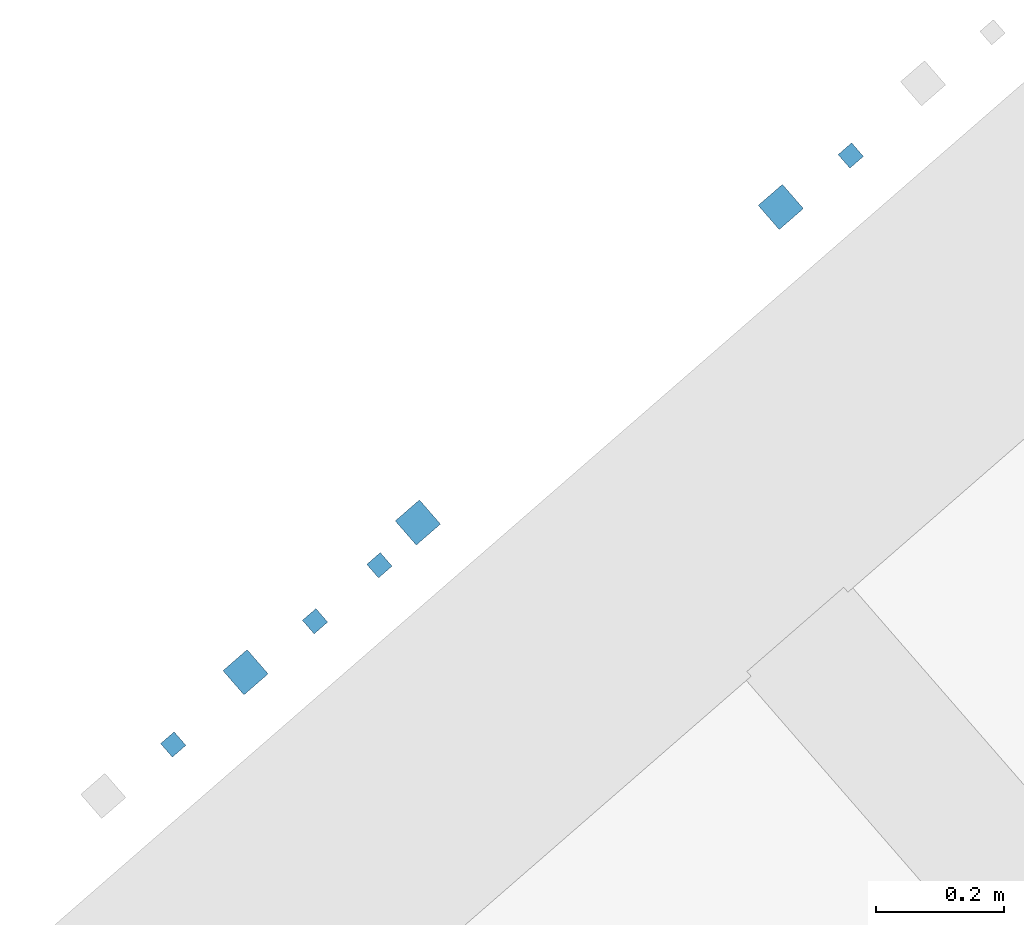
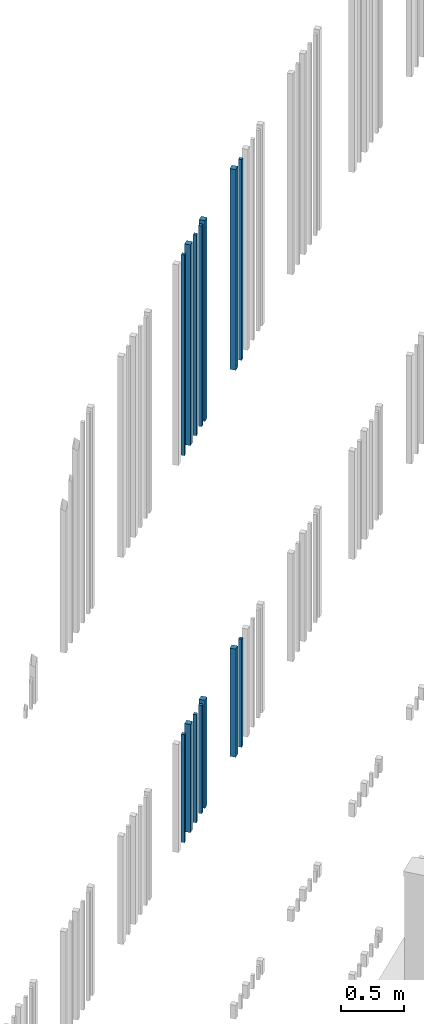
# One storey, part 51 of 124: 14 walls.
"""IFC2X3 building model written with IfcOpenShell, lengths in millimetres."""

import ifcopenshell
import ifcopenshell.guid

model = None  # the IFC model being written
_history = None  # IfcOwnerHistory: only IFC2X3 demands one
_inside = {}  # id of a spatial element -> (the spatial element, [elements in it])
_under = {}  # id of a project, library or spatial element -> (it, [spatial elements below it])
_declared = {}  # id of a project -> (the project, [libraries it declares])
_typed = {}  # id of a type object -> (the type object, [elements of that type])
_made_of = {}  # id of a material, layer set ... -> (it, [elements and type objects made of it])


def new_model(schema):
    """Start an empty IFC model of exactly this schema.

    Asked for "IFC4X3", IfcOpenShell would pick the latest addendum, in which some entities
    have other attributes; the version numbers below select the first issue.
    IFC2X3 requires an IfcOwnerHistory on every rooted entity: one is made here for all.
    """
    global model, _history
    if schema == "IFC4X3":
        model = ifcopenshell.file(schema_version=(4, 3, 0, 0))
    else:
        model = ifcopenshell.file(schema=schema)
    _inside.clear()
    _under.clear()
    _declared.clear()
    _typed.clear()
    _made_of.clear()
    _history = None
    if model.schema == "IFC2X3":
        org = make("IfcOrganization", Name="unknown")
        user = make(
            "IfcPersonAndOrganization",
            ThePerson=make("IfcPerson", FamilyName="unknown"),
            TheOrganization=org,
        )
        app = make(
            "IfcApplication",
            ApplicationDeveloper=org,
            Version="unknown",
            ApplicationFullName="unknown",
            ApplicationIdentifier="unknown",
        )
        _history = make(
            "IfcOwnerHistory",
            OwningUser=user,
            OwningApplication=app,
            ChangeAction="ADDED",
            CreationDate=0,
        )
    return model


def make(cls, **values):
    """One entity of the class cls with the attributes given. An attribute that is None is left unset."""
    return model.create_entity(
        cls, **{name: value for name, value in values.items() if value is not None}
    )


def entity(cls, *values):
    """Any entity or typed value of the class cls, its attributes in the order of the schema. None: left unset."""
    e = model.create_entity(cls)
    for i, value in enumerate(values):
        if value is not None:
            e[i] = value
    return e


def rooted(cls, **values):
    """An entity with a GlobalId (a new one), such as an element, a storey or a relation."""
    return make(cls, GlobalId=ifcopenshell.guid.new(), OwnerHistory=_history, **values)


def si_unit(unit_type, name, prefix=None):
    """IfcSIUnit, for example si_unit("LENGTHUNIT", "METRE", prefix="MILLI")."""
    return make("IfcSIUnit", UnitType=unit_type, Prefix=prefix, Name=name)


def converted_unit(unit_type, name, factor, base, dimensions=None, offset=None):
    """IfcConversionBasedUnit, such as the inch: factor (a typed value) times the base unit."""
    return make(
        "IfcConversionBasedUnit"
        if offset is None
        else "IfcConversionBasedUnitWithOffset",
        ConversionOffset=offset,
        Dimensions=None
        if dimensions is None
        else entity("IfcDimensionalExponents", *dimensions),
        UnitType=unit_type,
        Name=name,
        ConversionFactor=make(
            "IfcMeasureWithUnit", ValueComponent=factor, UnitComponent=base
        ),
    )


def derived_unit(unit_type, elements):
    """IfcDerivedUnit: a product of units, each with its exponent."""
    return make(
        "IfcDerivedUnit",
        Elements=[
            make("IfcDerivedUnitElement", Unit=unit, Exponent=power)
            for unit, power in elements
        ],
        UnitType=unit_type,
    )


def money_unit(currency):
    """IfcMonetaryUnit."""
    return make("IfcMonetaryUnit", Currency=currency)


def assignment(units):
    """IfcUnitAssignment: the units of a project."""
    return None if units is None else make("IfcUnitAssignment", Units=units)


def point(xyz):
    """IfcCartesianPoint."""
    return None if xyz is None else make("IfcCartesianPoint", Coordinates=xyz)


def direction(xyz):
    """IfcDirection."""
    return None if xyz is None else make("IfcDirection", DirectionRatios=xyz)


def frame(location, z_axis=None, x_axis=None):
    """IfcAxis2Placement3D, a coordinate frame: its origin and axes. An axis left out is left unset."""
    return make(
        "IfcAxis2Placement3D",
        Location=point(location),
        Axis=direction(z_axis),
        RefDirection=direction(x_axis),
    )


def origin_with_axes():
    """The frame at (0, 0, 0) with the z axis (0, 0, 1) and the x axis (1, 0, 0) written out."""
    return frame((0.0, 0.0, 0.0), z_axis=(0.0, 0.0, 1.0), x_axis=(1.0, 0.0, 0.0))


def place(relative_to, where):
    """IfcLocalPlacement: puts the frame where relative to a parent placement (None: the world)."""
    return make(
        "IfcLocalPlacement", PlacementRelTo=relative_to, RelativePlacement=where
    )


def context(
    kind, dimensions, precision=None, world=None, true_north=None, identifier=None
):
    """IfcGeometricRepresentationContext, for example the 3D "Model" context."""
    return make(
        "IfcGeometricRepresentationContext",
        ContextIdentifier=identifier,
        ContextType=kind,
        CoordinateSpaceDimension=dimensions,
        Precision=precision,
        WorldCoordinateSystem=world,
        TrueNorth=true_north,
    )


def subcontext(parent, identifier, kind, view, scale=None):
    """IfcGeometricRepresentationSubContext, for example "Body" below "Model"."""
    return make(
        "IfcGeometricRepresentationSubContext",
        ContextIdentifier=identifier,
        ContextType=kind,
        ParentContext=parent,
        TargetScale=scale,
        TargetView=view,
    )


def project(units=None, contexts=None):
    """IfcProject with its units and contexts."""
    return rooted(
        "IfcProject",
        Name="project",
        RepresentationContexts=contexts,
        UnitsInContext=assignment(units),
    )


def spatial(cls, under=None, at=None, **own):
    """A site, building, storey or space (cls), placed at a placement, below another one or the project."""
    s = rooted(cls, ObjectPlacement=at, **own)
    if under is not None:
        _under.setdefault(under.id(), (under, []))[1].append(s)
    return s


def faces_of(points, faces, orient=None, outer=None):
    """IfcFace entities. A face is a list of loops; a loop is a list of indices into points, from 0.

    orient and outer hold one flag for each loop. By default every Orientation is true, the
    first loop of a face is its IfcFaceOuterBound and the others are IfcFaceBound.
    """
    made = []
    for i, loops in enumerate(faces):
        bounds = []
        for j, loop in enumerate(loops):
            is_outer = j == 0 if outer is None else outer[i][j]
            bounds.append(
                make(
                    "IfcFaceOuterBound" if is_outer else "IfcFaceBound",
                    Bound=make("IfcPolyLoop", Polygon=[points[k] for k in loop]),
                    Orientation=True if orient is None else orient[i][j],
                )
            )
        made.append(make("IfcFace", Bounds=bounds))
    return made


def faceted_brep(points, faces, orient=None, outer=None, voids=None):
    """IfcFacetedBrep: a solid bounded by flat faces; with voids (closed shells), ...WithVoids."""
    shared = [point(p) for p in points]
    hull = make("IfcClosedShell", CfsFaces=faces_of(shared, faces, orient, outer))
    if voids is None:
        return make("IfcFacetedBrep", Outer=hull)
    return make(
        "IfcFacetedBrepWithVoids",
        Outer=hull,
        Voids=[
            make(cls, CfsFaces=faces_of(shared, fs, o, b)) for cls, fs, o, b in voids
        ],
    )


def shape(context_of_items, identifier, shape_type, items):
    """IfcShapeRepresentation: the items that make up one representation, for example the "Body"."""
    return make(
        "IfcShapeRepresentation",
        ContextOfItems=context_of_items,
        RepresentationIdentifier=identifier,
        RepresentationType=shape_type,
        Items=items,
    )


def material(Name=None, Category=None):
    """IfcMaterial."""
    return make("IfcMaterial", Name=Name, Category=Category)


def made_of(thing, what):
    """Note that an element or type object is made of a material, layer set ...; save() writes the relation."""
    if what is not None:
        _made_of.setdefault(what.id(), (what, []))[1].append(thing)
    return thing


def type_object(cls, material=None, **own):
    """A type object (cls), such as IfcWallType, which elements share."""
    return made_of(rooted(cls, **own), material)


def element(
    cls,
    number,
    at=None,
    inside=None,
    cuts=None,
    type_object=None,
    material=None,
    context=None,
    identifier="Body",
    shape_type=None,
    held_by="IfcProductDefinitionShape",
    body=None,
    shapes=None,
    **own,
):
    """One element of the class cls, such as IfcWall. Its Tag is "e" and its number.

    at: its placement. inside: the storey or other place that contains it. cuts: it is an
    opening in that element (IfcRelVoidsElement). A single representation is given by context,
    identifier, shape_type and body (its items); several are given by shapes. held_by: the class
    of the entity that holds the representations. save() writes the other relations.
    """
    e = rooted(cls, Tag="e%d" % number, ObjectPlacement=at, **own)
    if body is not None:
        shapes = [shape(context, identifier, shape_type, body)]
    if shapes is not None:
        e.Representation = make(held_by, Representations=shapes)
    if inside is not None:
        _inside.setdefault(inside.id(), (inside, []))[1].append(e)
    if cuts is not None:
        rooted(
            "IfcRelVoidsElement", RelatingBuildingElement=cuts, RelatedOpeningElement=e
        )
    if type_object is not None:
        _typed.setdefault(type_object.id(), (type_object, []))[1].append(e)
    return made_of(e, material)


def aggregate(whole, parts):
    """IfcRelAggregates: a whole, such as a stair, and the parts it consists of."""
    return rooted("IfcRelAggregates", RelatingObject=whole, RelatedObjects=parts)


def save(model, path):
    """Write the relations noted so far, then the file.

    IfcRelAggregates (storeys below a building ...), IfcRelContainedInSpatialStructure (elements
    in a storey), IfcRelDefinesByType, IfcRelAssociatesMaterial and IfcRelDeclares: one each for
    every whole, place, type object, material and project.
    """
    for whole, parts in _under.values():
        aggregate(whole, parts)
    for where, things in _inside.values():
        rooted(
            "IfcRelContainedInSpatialStructure",
            RelatedElements=things,
            RelatingStructure=where,
        )
    for kind, things in _typed.values():
        rooted("IfcRelDefinesByType", RelatedObjects=things, RelatingType=kind)
    for what, things in _made_of.values():
        rooted("IfcRelAssociatesMaterial", RelatedObjects=things, RelatingMaterial=what)
    for by, libraries in _declared.values():
        rooted("IfcRelDeclares", RelatingContext=by, RelatedDefinitions=libraries)
    model.write(path)


model = new_model("IFC2X3")

# Units and contexts
model_context = context("Model", 3, precision=1e-05, world=origin_with_axes(), true_north=direction((0.0, 1.0)))
body_context = subcontext(model_context, "Body", "Model", "MODEL_VIEW")
ifc_project = project(units=[si_unit("LENGTHUNIT", "METRE", prefix="MILLI"), si_unit("AREAUNIT", "SQUARE_METRE"), si_unit("VOLUMEUNIT", "CUBIC_METRE"), converted_unit("PLANEANGLEUNIT", "DEGREE", entity("IfcPlaneAngleMeasure", 0.0174532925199), si_unit("PLANEANGLEUNIT", "RADIAN"), dimensions=[0, 0, 0, 0, 0, 0, 0]), si_unit("SOLIDANGLEUNIT", "STERADIAN"), money_unit("EUR"), converted_unit("TIMEUNIT", "Year", entity("IfcTimeMeasure", 31556926.0), si_unit("TIMEUNIT", "SECOND"), dimensions=[0, 0, 1, 0, 0, 0, 0]), si_unit("MASSUNIT", "GRAM", prefix="KILO"), si_unit("THERMODYNAMICTEMPERATUREUNIT", "DEGREE_CELSIUS"), si_unit("LUMINOUSINTENSITYUNIT", "LUMEN"), si_unit("ENERGYUNIT", "JOULE", prefix="MEGA"), derived_unit("THERMALCONDUCTANCEUNIT", [(si_unit("POWERUNIT", "WATT"), 1), (si_unit("LENGTHUNIT", "METRE"), -1), (si_unit("THERMODYNAMICTEMPERATUREUNIT", "KELVIN"), -1)]), derived_unit("SPECIFICHEATCAPACITYUNIT", [(si_unit("ENERGYUNIT", "JOULE"), 1), (si_unit("MASSUNIT", "GRAM", prefix="KILO"), -1), (si_unit("THERMODYNAMICTEMPERATUREUNIT", "KELVIN"), -1)]), derived_unit("MASSDENSITYUNIT", [(si_unit("MASSUNIT", "GRAM", prefix="KILO"), 1), (si_unit("VOLUMEUNIT", "CUBIC_METRE"), -1)])], contexts=[model_context])

# Site, building, storey
site_placement = place(None, origin_with_axes())
site = spatial("IfcSite", under=ifc_project, at=site_placement, Name="Site", CompositionType="ELEMENT")
building_placement = place(site_placement, origin_with_axes())
building = spatial("IfcBuilding", under=site, at=building_placement, Name="Building", CompositionType="ELEMENT")
storey_placement = place(building_placement, frame((0.0, 0.0, -1615.0), z_axis=(0.0, 0.0, 1.0), x_axis=(1.0, 0.0, 0.0)))
storey = spatial("IfcBuildingStorey", under=building, at=storey_placement, Name="0  korrus", CompositionType="ELEMENT", Elevation=-1615.0)

# Walls
ifc_material = material(Name="Site specified")
wall_type = type_object("IfcWallType", Name="Puitfassaadi ribistik", PredefinedType="NOTDEFINED")
wall_1_placement = place(storey_placement, frame((147063.992098, 97862.6185865, 9530.0), z_axis=(0.0, 0.0, 1.0), x_axis=(0.754709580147, 0.656059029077, 0.0)))
element("IfcWall", 1, at=wall_1_placement, inside=storey, type_object=wall_type, material=ifc_material, Name="Site specified", context=body_context, shape_type="Brep", body=[
    faceted_brep([(14.0, 14.0, 1950.0), (14.0, 14.0, 0.0), (-14.0, 14.0, 0.0), (-14.0, 14.0, 1950.0), (14.0, -14.0, 1950.0), (14.0, -14.0, 0.0), (-14.0, -14.0, 0.0), (-14.0, -14.0, 1950.0)], [[[0, 1, 2, 3]], [[4, 5, 1, 0]], [[2, 1, 5, 6]], [[3, 2, 6, 7]], [[4, 0, 3, 7]], [[7, 6, 5, 4]]]),
])
for number, where, z_axis, x_axis, name in (
    (2, (147224.323367, 98016.5675757, 9530.0), (0.0, 0.0, 1.0), (0.754709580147, 0.656059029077, 0.0), "Site specified"),
    (3, (146955.642505, 97783.0068656, 9530.0), (0.0, 0.0, 1.0), (0.754709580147, 0.656059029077, 0.0), "Site specified"),
):
    element("IfcWall", number, at=place(storey_placement, frame(where, z_axis=z_axis, x_axis=x_axis)), inside=storey, type_object=wall_type, material=ifc_material, Name=name, context=body_context, shape_type="Brep", body=[
        faceted_brep([(25.0, 25.0, 1950.0), (25.0, 25.0, 0.0), (-25.0, 25.0, 0.0), (-25.0, 25.0, 1950.0), (25.0, -25.0, 1950.0), (25.0, -25.0, 0.0), (-25.0, -25.0, 0.0), (-25.0, -25.0, 1950.0)], [[[0, 1, 2, 3]], [[4, 5, 1, 0]], [[2, 1, 5, 6]], [[3, 2, 6, 7]], [[4, 0, 3, 7]], [[7, 6, 5, 4]]]),
    ])
wall_2_placement = place(storey_placement, frame((146955.642505, 97783.0068656, 5771.0), z_axis=(0.0, 0.0, 1.0), x_axis=(0.754709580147, 0.656059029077, 0.0)))
element("IfcWall", 4, at=wall_2_placement, inside=storey, type_object=wall_type, material=ifc_material, Name="Site specified", context=body_context, shape_type="Brep", body=[
    faceted_brep([(25.0, 25.0, 1050.0), (25.0, 25.0, 0.0), (-25.0, 25.0, 0.0), (-25.0, 25.0, 1050.0), (25.0, -25.0, 1050.0), (25.0, -25.0, 0.0), (-25.0, -25.0, 0.0), (-25.0, -25.0, 1050.0)], [[[0, 1, 2, 3]], [[4, 5, 1, 0]], [[2, 1, 5, 6]], [[3, 2, 6, 7]], [[4, 0, 3, 7]], [[7, 6, 5, 4]]]),
])
for number, where, z_axis, x_axis, name in (
    (5, (146842.862213, 97670.3933099, 9530.0), (0.0, 0.0, 1.0), (0.754709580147, 0.656059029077, 0.0), "Site specified"),
    (6, (147164.368471, 97949.8744368, 9530.0), (0.0, 0.0, 1.0), (0.754709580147, 0.656059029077, 0.0), "Site specified"),
):
    element("IfcWall", number, at=place(storey_placement, frame(where, z_axis=z_axis, x_axis=x_axis)), inside=storey, type_object=wall_type, material=ifc_material, Name=name, context=body_context, shape_type="Brep", body=[
        faceted_brep([(14.0, 14.0, 1950.0), (14.0, 14.0, 0.0), (-14.0, 14.0, 0.0), (-14.0, 14.0, 1950.0), (14.0, -14.0, 1950.0), (14.0, -14.0, 0.0), (-14.0, -14.0, 0.0), (-14.0, -14.0, 1950.0)], [[[0, 1, 2, 3]], [[4, 5, 1, 0]], [[2, 1, 5, 6]], [[3, 2, 6, 7]], [[4, 0, 3, 7]], [[7, 6, 5, 4]]]),
    ])
wall_3_placement = place(storey_placement, frame((147224.323367, 98016.5675757, 5771.0), z_axis=(0.0, 0.0, 1.0), x_axis=(0.754709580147, 0.656059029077, 0.0)))
element("IfcWall", 7, at=wall_3_placement, inside=storey, type_object=wall_type, material=ifc_material, Name="Site specified", context=body_context, shape_type="Brep", body=[
    faceted_brep([(25.0, 25.0, 1050.0), (25.0, 25.0, 0.0), (-25.0, 25.0, 0.0), (-25.0, 25.0, 1050.0), (25.0, -25.0, 1050.0), (25.0, -25.0, 0.0), (-25.0, -25.0, 0.0), (-25.0, -25.0, 1050.0)], [[[0, 1, 2, 3]], [[4, 5, 1, 0]], [[2, 1, 5, 6]], [[3, 2, 6, 7]], [[4, 0, 3, 7]], [[7, 6, 5, 4]]]),
])
for number, where, z_axis, x_axis, name in (
    (8, (146842.862213, 97670.3933099, 5771.0), (0.0, 0.0, 1.0), (0.754709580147, 0.656059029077, 0.0), "Site specified"),
    (9, (147164.368471, 97949.8744368, 5771.0), (0.0, 0.0, 1.0), (0.754709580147, 0.656059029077, 0.0), "Site specified"),
    (10, (147063.992098, 97862.6185865, 5771.0), (0.0, 0.0, 1.0), (0.754709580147, 0.656059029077, 0.0), "Site specified"),
):
    element("IfcWall", number, at=place(storey_placement, frame(where, z_axis=z_axis, x_axis=x_axis)), inside=storey, type_object=wall_type, material=ifc_material, Name=name, context=body_context, shape_type="Brep", body=[
        faceted_brep([(14.0, 14.0, 1050.0), (14.0, 14.0, 0.0), (-14.0, 14.0, 0.0), (-14.0, 14.0, 1050.0), (14.0, -14.0, 1050.0), (14.0, -14.0, 0.0), (-14.0, -14.0, 0.0), (-14.0, -14.0, 1050.0)], [[[0, 1, 2, 3]], [[4, 5, 1, 0]], [[2, 1, 5, 6]], [[3, 2, 6, 7]], [[4, 0, 3, 7]], [[7, 6, 5, 4]]]),
    ])
wall_4_placement = place(storey_placement, frame((147790.351199, 98508.6080632, 5771.0), z_axis=(0.0, 0.0, 1.0), x_axis=(0.754709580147, 0.656059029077, 0.0)))
element("IfcWall", 11, at=wall_4_placement, inside=storey, type_object=wall_type, material=ifc_material, Name="Site specified", context=body_context, shape_type="Brep", body=[
    faceted_brep([(25.0, 25.0, 1050.0), (25.0, 25.0, 0.0), (-25.0, 25.0, 0.0), (-25.0, 25.0, 1050.0), (25.0, -25.0, 1050.0), (25.0, -25.0, 0.0), (-25.0, -25.0, 0.0), (-25.0, -25.0, 1050.0)], [[[0, 1, 2, 3]], [[4, 5, 1, 0]], [[2, 1, 5, 6]], [[3, 2, 6, 7]], [[4, 0, 3, 7]], [[7, 6, 5, 4]]]),
])
wall_5_placement = place(storey_placement, frame((147899.455521, 98588.8758606, 5771.0), z_axis=(0.0, 0.0, 1.0), x_axis=(0.754709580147, 0.656059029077, 0.0)))
element("IfcWall", 12, at=wall_5_placement, inside=storey, type_object=wall_type, material=ifc_material, Name="Site specified", context=body_context, shape_type="Brep", body=[
    faceted_brep([(14.0, 14.0, 1050.0), (14.0, 14.0, 0.0), (-14.0, 14.0, 0.0), (-14.0, 14.0, 1050.0), (14.0, -14.0, 1050.0), (14.0, -14.0, 0.0), (-14.0, -14.0, 0.0), (-14.0, -14.0, 1050.0)], [[[0, 1, 2, 3]], [[4, 5, 1, 0]], [[2, 1, 5, 6]], [[3, 2, 6, 7]], [[4, 0, 3, 7]], [[7, 6, 5, 4]]]),
])
wall_6_placement = place(storey_placement, frame((147790.351199, 98508.6080632, 9530.0), z_axis=(0.0, 0.0, 1.0), x_axis=(0.754709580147, 0.656059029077, 0.0)))
element("IfcWall", 13, at=wall_6_placement, inside=storey, type_object=wall_type, material=ifc_material, Name="Site specified", context=body_context, shape_type="Brep", body=[
    faceted_brep([(25.0, 25.0, 1950.0), (25.0, 25.0, 0.0), (-25.0, 25.0, 0.0), (-25.0, 25.0, 1950.0), (25.0, -25.0, 1950.0), (25.0, -25.0, 0.0), (-25.0, -25.0, 0.0), (-25.0, -25.0, 1950.0)], [[[0, 1, 2, 3]], [[4, 5, 1, 0]], [[2, 1, 5, 6]], [[3, 2, 6, 7]], [[4, 0, 3, 7]], [[7, 6, 5, 4]]]),
])
wall_7_placement = place(storey_placement, frame((147899.455521, 98588.8758606, 9530.0), z_axis=(0.0, 0.0, 1.0), x_axis=(0.754709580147, 0.656059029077, 0.0)))
element("IfcWall", 14, at=wall_7_placement, inside=storey, type_object=wall_type, material=ifc_material, Name="Site specified", context=body_context, shape_type="Brep", body=[
    faceted_brep([(14.0, 14.0, 1950.0), (14.0, 14.0, 0.0), (-14.0, 14.0, 0.0), (-14.0, 14.0, 1950.0), (14.0, -14.0, 1950.0), (14.0, -14.0, 0.0), (-14.0, -14.0, 0.0), (-14.0, -14.0, 1950.0)], [[[0, 1, 2, 3]], [[4, 5, 1, 0]], [[2, 1, 5, 6]], [[3, 2, 6, 7]], [[4, 0, 3, 7]], [[7, 6, 5, 4]]]),
])

save(model, "model.ifc")
